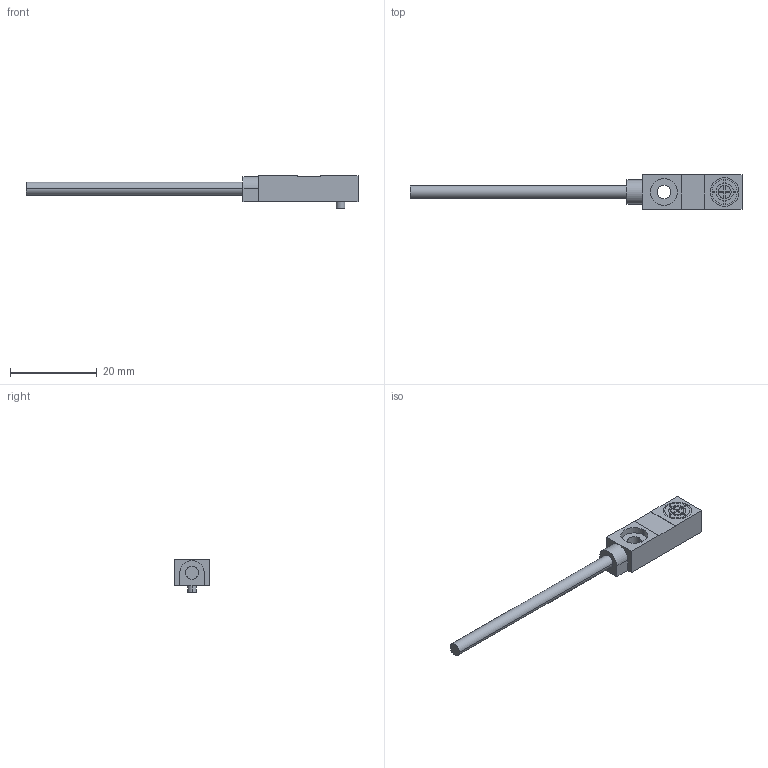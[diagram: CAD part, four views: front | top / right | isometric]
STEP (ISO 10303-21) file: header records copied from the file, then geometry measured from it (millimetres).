
FILE_DESCRIPTION (( 'STEP AP214' ), '1' );
FILE_NAME ('SP08褲极.STEP', '2025-09-09T10:28:32', ( 'Windows User' ), ( 'P R C' ), 'SwSTEP 2.0', 'SolidWorks 2023', '' );
FILE_SCHEMA (( 'AUTOMOTIVE_DESIGN' ));
Length unit declared in the file: millimetre
Products named in the file (1): SP08壳体
Bounding box: 76.5 x 8 x 7.5 mm (x, y, z)
Volume: 1473.3 mm3; surface area: 1393.1 mm2
Topology: 1 solids, 3 shells, 82 faces, 192 edges, 128 vertices
Faces by surface type: plane 58, cylinder 24
Entity records: 2367 total; most frequent: DIRECTION 406, CARTESIAN_POINT 403, ORIENTED_EDGE 384, EDGE_CURVE 192, LINE 144, VECTOR 144, AXIS2_PLACEMENT_3D 131, VERTEX_POINT 128
